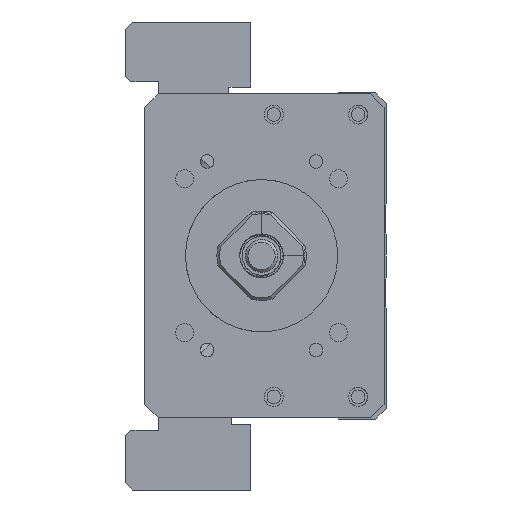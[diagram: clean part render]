
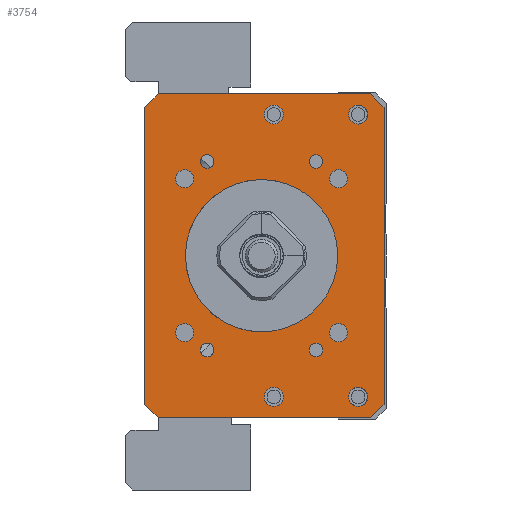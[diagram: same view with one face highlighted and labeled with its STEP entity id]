
A CAD part, left-side view. The second image highlights one B-rep face of the part: STEP entity #3754.
In plain terms, the highlighted planar face has unit normal (-1, 0, 0).
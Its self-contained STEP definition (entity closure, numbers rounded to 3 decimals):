
#1246=LINE('',#19682,#2171);
#1248=LINE('',#19706,#2173);
#1249=LINE('',#19708,#2174);
#1250=LINE('',#19710,#2175);
#1251=LINE('',#19712,#2176);
#1252=LINE('',#19714,#2177);
#1253=LINE('',#19716,#2178);
#1254=LINE('',#19718,#2179);
#2171=VECTOR('',#15571,1.);
#2173=VECTOR('',#15595,1.);
#2174=VECTOR('',#15596,1.);
#2175=VECTOR('',#15597,1.);
#2176=VECTOR('',#15598,1.);
#2177=VECTOR('',#15599,1.);
#2178=VECTOR('',#15600,1.);
#2179=VECTOR('',#15601,1.);
#2665=PLANE('',#12723);
#3754=ADVANCED_FACE('',(#4525,#4526,#4527,#4528,#4529,#4530,#4531,#4532,
#4533,#4534,#4535,#4536,#4537,#4538),#2665,.F.);
#4525=FACE_BOUND('',#5430,.T.);
#4526=FACE_BOUND('',#5431,.T.);
#4527=FACE_BOUND('',#5432,.T.);
#4528=FACE_BOUND('',#5433,.T.);
#4529=FACE_BOUND('',#5434,.T.);
#4530=FACE_BOUND('',#5435,.T.);
#4531=FACE_BOUND('',#5436,.T.);
#4532=FACE_BOUND('',#5437,.T.);
#4533=FACE_BOUND('',#5438,.T.);
#4534=FACE_BOUND('',#5439,.T.);
#4535=FACE_BOUND('',#5440,.T.);
#4536=FACE_BOUND('',#5441,.T.);
#4537=FACE_BOUND('',#5442,.T.);
#4538=FACE_BOUND('',#5443,.T.);
#5430=EDGE_LOOP('',(#8036));
#5431=EDGE_LOOP('',(#8037));
#5432=EDGE_LOOP('',(#8038));
#5433=EDGE_LOOP('',(#8039));
#5434=EDGE_LOOP('',(#8040));
#5435=EDGE_LOOP('',(#8041));
#5436=EDGE_LOOP('',(#8042));
#5437=EDGE_LOOP('',(#8043));
#5438=EDGE_LOOP('',(#8044));
#5439=EDGE_LOOP('',(#8045,#8046,#8047,#8048,#8049,#8050,#8051,#8052));
#5440=EDGE_LOOP('',(#8053));
#5441=EDGE_LOOP('',(#8054));
#5442=EDGE_LOOP('',(#8055));
#5443=EDGE_LOOP('',(#8056));
#8036=ORIENTED_EDGE('',*,*,#11041,.F.);
#8037=ORIENTED_EDGE('',*,*,#11042,.F.);
#8038=ORIENTED_EDGE('',*,*,#11043,.F.);
#8039=ORIENTED_EDGE('',*,*,#11044,.F.);
#8040=ORIENTED_EDGE('',*,*,#11045,.F.);
#8041=ORIENTED_EDGE('',*,*,#11046,.T.);
#8042=ORIENTED_EDGE('',*,*,#11047,.F.);
#8043=ORIENTED_EDGE('',*,*,#11048,.F.);
#8044=ORIENTED_EDGE('',*,*,#11049,.F.);
#8045=ORIENTED_EDGE('',*,*,#11038,.T.);
#8046=ORIENTED_EDGE('',*,*,#11050,.T.);
#8047=ORIENTED_EDGE('',*,*,#11051,.F.);
#8048=ORIENTED_EDGE('',*,*,#11052,.T.);
#8049=ORIENTED_EDGE('',*,*,#11053,.F.);
#8050=ORIENTED_EDGE('',*,*,#11054,.T.);
#8051=ORIENTED_EDGE('',*,*,#11055,.T.);
#8052=ORIENTED_EDGE('',*,*,#11056,.T.);
#8053=ORIENTED_EDGE('',*,*,#11057,.F.);
#8054=ORIENTED_EDGE('',*,*,#11058,.F.);
#8055=ORIENTED_EDGE('',*,*,#11059,.F.);
#8056=ORIENTED_EDGE('',*,*,#11018,.F.);
#9586=VERTEX_POINT('',#19621);
#9606=VERTEX_POINT('',#19681);
#9607=VERTEX_POINT('',#19683);
#9609=VERTEX_POINT('',#19689);
#9610=VERTEX_POINT('',#19691);
#9611=VERTEX_POINT('',#19693);
#9612=VERTEX_POINT('',#19695);
#9613=VERTEX_POINT('',#19697);
#9614=VERTEX_POINT('',#19699);
#9615=VERTEX_POINT('',#19701);
#9616=VERTEX_POINT('',#19703);
#9617=VERTEX_POINT('',#19705);
#9618=VERTEX_POINT('',#19707);
#9619=VERTEX_POINT('',#19709);
#9620=VERTEX_POINT('',#19711);
#9621=VERTEX_POINT('',#19713);
#9622=VERTEX_POINT('',#19715);
#9623=VERTEX_POINT('',#19717);
#9624=VERTEX_POINT('',#19720);
#9625=VERTEX_POINT('',#19722);
#9626=VERTEX_POINT('',#19724);
#11018=EDGE_CURVE('',#9586,#9586,#11691,.T.);
#11038=EDGE_CURVE('',#9607,#9606,#1246,.T.);
#11041=EDGE_CURVE('',#9609,#9609,#11700,.T.);
#11042=EDGE_CURVE('',#9610,#9610,#11701,.T.);
#11043=EDGE_CURVE('',#9611,#9611,#11702,.T.);
#11044=EDGE_CURVE('',#9612,#9612,#11703,.T.);
#11045=EDGE_CURVE('',#9613,#9613,#11704,.T.);
#11046=EDGE_CURVE('',#9614,#9614,#11705,.T.);
#11047=EDGE_CURVE('',#9615,#9615,#11706,.T.);
#11048=EDGE_CURVE('',#9616,#9616,#11707,.T.);
#11049=EDGE_CURVE('',#9617,#9617,#11708,.T.);
#11050=EDGE_CURVE('',#9606,#9618,#1248,.T.);
#11051=EDGE_CURVE('',#9619,#9618,#1249,.T.);
#11052=EDGE_CURVE('',#9619,#9620,#1250,.T.);
#11053=EDGE_CURVE('',#9621,#9620,#1251,.T.);
#11054=EDGE_CURVE('',#9621,#9622,#1252,.T.);
#11055=EDGE_CURVE('',#9622,#9623,#1253,.T.);
#11056=EDGE_CURVE('',#9623,#9607,#1254,.T.);
#11057=EDGE_CURVE('',#9624,#9624,#11709,.T.);
#11058=EDGE_CURVE('',#9625,#9625,#11710,.T.);
#11059=EDGE_CURVE('',#9626,#9626,#11711,.T.);
#11691=CIRCLE('',#12700,14.);
#11700=CIRCLE('',#12711,1.65);
#11701=CIRCLE('',#12712,1.65);
#11702=CIRCLE('',#12713,1.65);
#11703=CIRCLE('',#12714,1.65);
#11704=CIRCLE('',#12715,1.25);
#11705=CIRCLE('',#12716,1.75);
#11706=CIRCLE('',#12717,1.25);
#11707=CIRCLE('',#12718,1.75);
#11708=CIRCLE('',#12719,1.25);
#11709=CIRCLE('',#12720,1.75);
#11710=CIRCLE('',#12721,1.75);
#11711=CIRCLE('',#12722,1.25);
#12700=AXIS2_PLACEMENT_3D('',#19620,#15545,#15546);
#12711=AXIS2_PLACEMENT_3D('',#19688,#15577,#15578);
#12712=AXIS2_PLACEMENT_3D('',#19690,#15579,#15580);
#12713=AXIS2_PLACEMENT_3D('',#19692,#15581,#15582);
#12714=AXIS2_PLACEMENT_3D('',#19694,#15583,#15584);
#12715=AXIS2_PLACEMENT_3D('',#19696,#15585,#15586);
#12716=AXIS2_PLACEMENT_3D('',#19698,#15587,#15588);
#12717=AXIS2_PLACEMENT_3D('',#19700,#15589,#15590);
#12718=AXIS2_PLACEMENT_3D('',#19702,#15591,#15592);
#12719=AXIS2_PLACEMENT_3D('',#19704,#15593,#15594);
#12720=AXIS2_PLACEMENT_3D('',#19719,#15602,#15603);
#12721=AXIS2_PLACEMENT_3D('',#19721,#15604,#15605);
#12722=AXIS2_PLACEMENT_3D('',#19723,#15606,#15607);
#12723=AXIS2_PLACEMENT_3D('',#19725,#15608,#15609);
#15545=DIRECTION('',(-1.,0.,0.));
#15546=DIRECTION('',(0.,1.,0.));
#15571=DIRECTION('',(0.,0.,-1.));
#15577=DIRECTION('',(-1.,0.,0.));
#15578=DIRECTION('',(0.,0.,1.));
#15579=DIRECTION('',(-1.,0.,0.));
#15580=DIRECTION('',(0.,0.,1.));
#15581=DIRECTION('',(-1.,0.,0.));
#15582=DIRECTION('',(0.,0.,1.));
#15583=DIRECTION('',(-1.,0.,0.));
#15584=DIRECTION('',(0.,0.,1.));
#15585=DIRECTION('',(-1.,0.,0.));
#15586=DIRECTION('',(0.,1.,0.));
#15587=DIRECTION('',(1.,0.,0.));
#15588=DIRECTION('',(0.,0.,1.));
#15589=DIRECTION('',(-1.,0.,0.));
#15590=DIRECTION('',(0.,1.,0.));
#15591=DIRECTION('',(-1.,0.,0.));
#15592=DIRECTION('',(0.,0.,1.));
#15593=DIRECTION('',(-1.,0.,0.));
#15594=DIRECTION('',(0.,1.,0.));
#15595=DIRECTION('',(0.,-0.707,-0.707));
#15596=DIRECTION('',(0.,1.,0.));
#15597=DIRECTION('',(0.,-0.707,0.707));
#15598=DIRECTION('',(0.,0.,-1.));
#15599=DIRECTION('',(0.,0.707,0.707));
#15600=DIRECTION('',(0.,1.,0.));
#15601=DIRECTION('',(0.,0.707,-0.707));
#15602=DIRECTION('',(-1.,0.,0.));
#15603=DIRECTION('',(0.,0.,1.));
#15604=DIRECTION('',(-1.,0.,0.));
#15605=DIRECTION('',(0.,0.,1.));
#15606=DIRECTION('',(-1.,0.,0.));
#15607=DIRECTION('',(0.,1.,0.));
#15608=DIRECTION('',(1.,0.,0.));
#15609=DIRECTION('',(0.,1.,0.));
#19620=CARTESIAN_POINT('',(-211.,0.,-200.));
#19621=CARTESIAN_POINT('',(-211.,14.,-200.));
#19681=CARTESIAN_POINT('',(-211.,21.499,-227.25));
#19682=CARTESIAN_POINT('',(-211.,21.499,-170.25));
#19683=CARTESIAN_POINT('',(-211.,21.499,-172.75));
#19688=CARTESIAN_POINT('',(-211.,14.142,-185.858));
#19689=CARTESIAN_POINT('',(-211.,14.142,-184.208));
#19690=CARTESIAN_POINT('',(-211.,-14.142,-185.858));
#19691=CARTESIAN_POINT('',(-211.,-14.142,-184.208));
#19692=CARTESIAN_POINT('',(-211.,14.142,-214.142));
#19693=CARTESIAN_POINT('',(-211.,14.142,-212.492));
#19694=CARTESIAN_POINT('',(-211.,-14.142,-214.142));
#19695=CARTESIAN_POINT('',(-211.,-14.142,-212.492));
#19696=CARTESIAN_POINT('',(-211.,-10.,-217.321));
#19697=CARTESIAN_POINT('',(-211.,-8.75,-217.321));
#19698=CARTESIAN_POINT('',(-211.,-2.25,-225.936));
#19699=CARTESIAN_POINT('',(-211.,-2.25,-224.186));
#19700=CARTESIAN_POINT('',(-211.,10.,-182.679));
#19701=CARTESIAN_POINT('',(-211.,11.25,-182.679));
#19702=CARTESIAN_POINT('',(-211.,-2.25,-174.064));
#19703=CARTESIAN_POINT('',(-211.,-2.25,-172.314));
#19704=CARTESIAN_POINT('',(-211.,10.,-217.321));
#19705=CARTESIAN_POINT('',(-211.,11.25,-217.321));
#19706=CARTESIAN_POINT('',(-211.,18.999,-229.75));
#19707=CARTESIAN_POINT('',(-211.,18.999,-229.75));
#19708=CARTESIAN_POINT('',(-211.,-22.501,-229.75));
#19709=CARTESIAN_POINT('',(-211.,-20.001,-229.75));
#19710=CARTESIAN_POINT('',(-211.,-22.501,-227.25));
#19711=CARTESIAN_POINT('',(-211.,-22.501,-227.25));
#19712=CARTESIAN_POINT('',(-211.,-22.501,-170.25));
#19713=CARTESIAN_POINT('',(-211.,-22.501,-172.75));
#19714=CARTESIAN_POINT('',(-211.,-22.501,-172.75));
#19715=CARTESIAN_POINT('',(-211.,-20.001,-170.25));
#19716=CARTESIAN_POINT('',(-211.,-22.501,-170.25));
#19717=CARTESIAN_POINT('',(-211.,18.999,-170.25));
#19718=CARTESIAN_POINT('',(-211.,18.999,-170.25));
#19719=CARTESIAN_POINT('',(-211.,-17.75,-174.064));
#19720=CARTESIAN_POINT('',(-211.,-17.75,-172.314));
#19721=CARTESIAN_POINT('',(-211.,-17.75,-225.936));
#19722=CARTESIAN_POINT('',(-211.,-17.75,-224.186));
#19723=CARTESIAN_POINT('',(-211.,-10.,-182.679));
#19724=CARTESIAN_POINT('',(-211.,-8.75,-182.679));
#19725=CARTESIAN_POINT('',(-211.,-22.501,-170.25));
